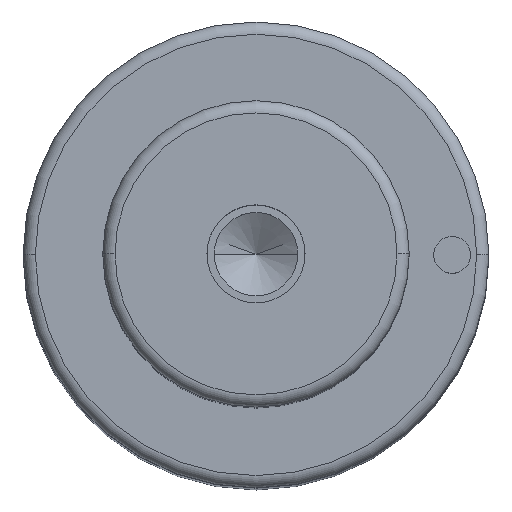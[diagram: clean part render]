
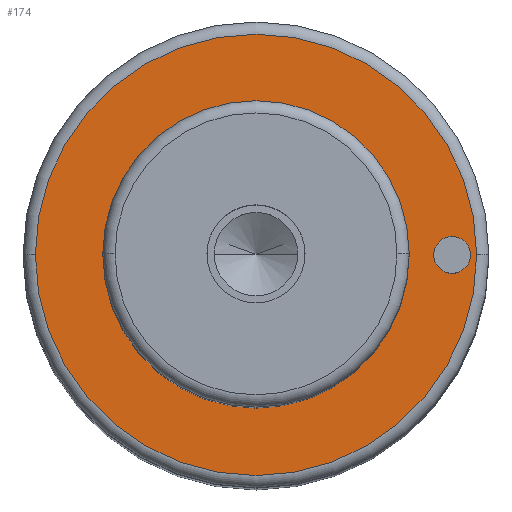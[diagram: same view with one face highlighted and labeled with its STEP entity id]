
A CAD part, top view. The second image highlights one B-rep face of the part: STEP entity #174.
In plain terms, the highlighted planar face has unit normal (0, 0, 1).
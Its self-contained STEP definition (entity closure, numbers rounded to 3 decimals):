
#105=PLANE('',#834);
#115=FACE_BOUND('',#275,.T.);
#116=FACE_BOUND('',#276,.T.);
#117=FACE_BOUND('',#277,.T.);
#174=ADVANCED_FACE('',(#115,#116,#117),#105,.T.);
#275=EDGE_LOOP('',(#455,#456));
#276=EDGE_LOOP('',(#457,#458));
#277=EDGE_LOOP('',(#459,#460));
#323=CIRCLE('',#802,12.5);
#324=CIRCLE('',#804,12.5);
#328=CIRCLE('',#809,18.);
#329=CIRCLE('',#811,18.);
#341=CIRCLE('',#832,1.5);
#342=CIRCLE('',#833,1.5);
#455=ORIENTED_EDGE('',*,*,#642,.F.);
#456=ORIENTED_EDGE('',*,*,#643,.F.);
#457=ORIENTED_EDGE('',*,*,#661,.F.);
#458=ORIENTED_EDGE('',*,*,#662,.F.);
#459=ORIENTED_EDGE('',*,*,#638,.T.);
#460=ORIENTED_EDGE('',*,*,#636,.T.);
#570=VERTEX_POINT('',#1183);
#571=VERTEX_POINT('',#1185);
#572=VERTEX_POINT('',#1191);
#575=VERTEX_POINT('',#1196);
#584=VERTEX_POINT('',#1235);
#585=VERTEX_POINT('',#1236);
#636=EDGE_CURVE('',#571,#570,#323,.T.);
#638=EDGE_CURVE('',#570,#571,#324,.T.);
#642=EDGE_CURVE('',#575,#572,#328,.T.);
#643=EDGE_CURVE('',#572,#575,#329,.T.);
#661=EDGE_CURVE('',#584,#585,#341,.T.);
#662=EDGE_CURVE('',#585,#584,#342,.T.);
#802=AXIS2_PLACEMENT_3D('',#1184,#943,#944);
#804=AXIS2_PLACEMENT_3D('',#1188,#948,#949);
#809=AXIS2_PLACEMENT_3D('',#1197,#958,#959);
#811=AXIS2_PLACEMENT_3D('',#1199,#962,#963);
#832=AXIS2_PLACEMENT_3D('',#1234,#1010,#1011);
#833=AXIS2_PLACEMENT_3D('',#1237,#1012,#1013);
#834=AXIS2_PLACEMENT_3D('',#1238,#1014,#1015);
#943=DIRECTION('',(0.,0.,-1.));
#944=DIRECTION('',(0.,1.,0.));
#948=DIRECTION('',(0.,0.,-1.));
#949=DIRECTION('',(0.,-1.,0.));
#958=DIRECTION('',(0.,0.,-1.));
#959=DIRECTION('',(0.,1.,0.));
#962=DIRECTION('',(0.,0.,-1.));
#963=DIRECTION('',(0.,-1.,0.));
#1010=DIRECTION('',(0.,0.,1.));
#1011=DIRECTION('',(0.,1.,0.));
#1012=DIRECTION('',(0.,0.,1.));
#1013=DIRECTION('',(0.,-1.,0.));
#1014=DIRECTION('',(0.,0.,1.));
#1015=DIRECTION('',(0.,-1.,0.));
#1183=CARTESIAN_POINT('',(-12.5,0.,103.));
#1184=CARTESIAN_POINT('',(0.,0.,103.));
#1185=CARTESIAN_POINT('',(12.5,0.,103.));
#1188=CARTESIAN_POINT('',(0.,0.,103.));
#1191=CARTESIAN_POINT('',(-18.,0.,103.));
#1196=CARTESIAN_POINT('',(18.,0.,103.));
#1197=CARTESIAN_POINT('',(0.,0.,103.));
#1199=CARTESIAN_POINT('',(0.,0.,103.));
#1234=CARTESIAN_POINT('',(16.,0.,103.));
#1235=CARTESIAN_POINT('',(14.5,0.,103.));
#1236=CARTESIAN_POINT('',(17.5,0.,103.));
#1237=CARTESIAN_POINT('',(16.,0.,103.));
#1238=CARTESIAN_POINT('',(0.,0.,103.));
